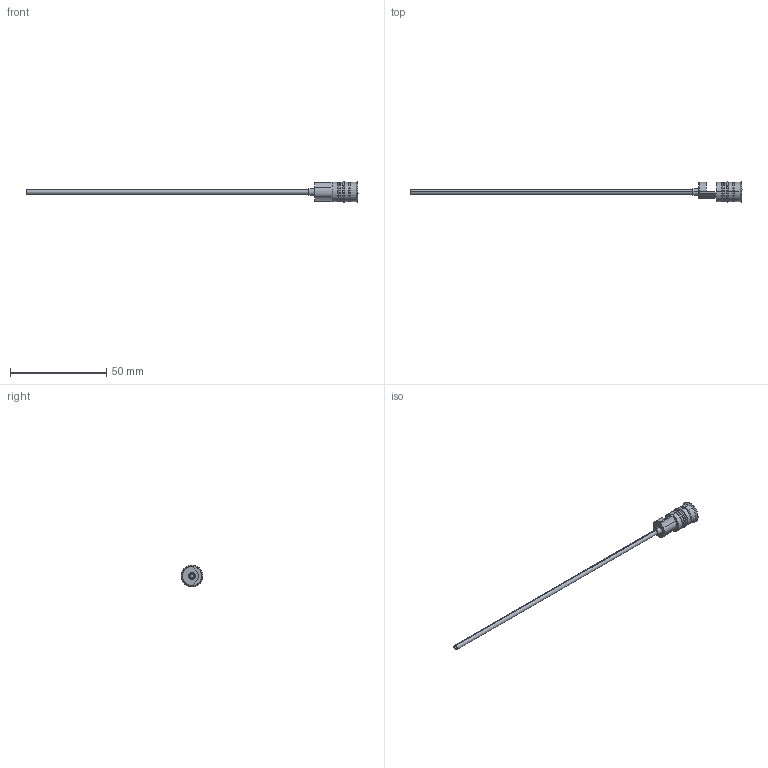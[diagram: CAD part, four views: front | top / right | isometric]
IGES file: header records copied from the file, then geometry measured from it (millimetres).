
Start section: START RECORD GO HERE.
Global section: file name: RF-10Fx150_2.5.igs; native system: DASSAULT SYSTEMES CATIA V5 R20 - www.3ds.com; preprocessor: CATIA Version 5 Release 20 ; author: Utente; organization: NB04-ASUS; date: 20210223.202955; units: millimetre
Bounding box: 172.5 x 11.3 x 11.3 mm (x, y, z)
Surface area: 3357.2 mm2 (no closed solid volume)
Topology: 0 solids, 0 shells, 73 faces, 408 edges, 408 vertices
Faces by surface type: revolution 47, plane 26
